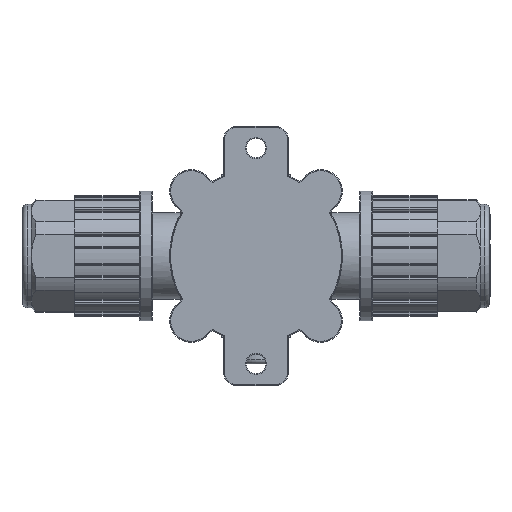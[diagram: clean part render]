
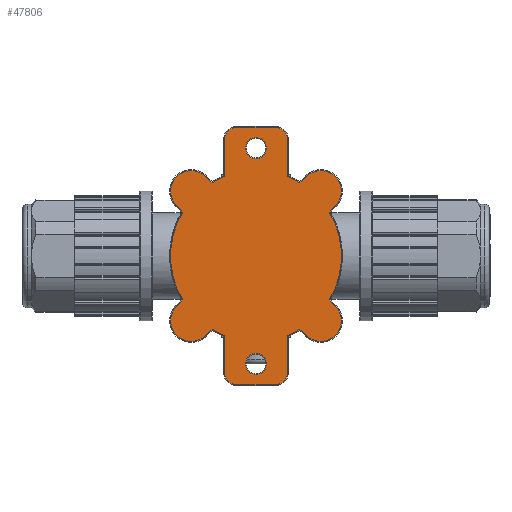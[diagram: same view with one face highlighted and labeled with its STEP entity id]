
A CAD part, front view. The second image highlights one B-rep face of the part: STEP entity #47806.
In plain terms, the highlighted planar face has unit normal (0, -1, 0).
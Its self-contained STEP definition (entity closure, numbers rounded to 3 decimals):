
#612=PLANE($,#50630);
#1821=FACE_BOUND($,#4859,.T.);
#1822=FACE_BOUND($,#4860,.T.);
#2148=FACE_OUTER_BOUND($,#4858,.T.);
#4858=EDGE_LOOP($,(#32249,#32250,#32251,#32252,#32253,#32254,#32255,#32256,
#32257,#32258,#32259,#32260,#32261,#32262,#32263,#32264,#32265,#32266,#32267,
#32268,#32269,#32270,#32271,#32272,#32273,#32274,#32275,#32276));
#4859=EDGE_LOOP($,(#32277));
#4860=EDGE_LOOP($,(#32278));
#7892=LINE($,#70179,#12351);
#7893=LINE($,#70183,#12352);
#7894=LINE($,#70187,#12353);
#7895=LINE($,#70191,#12354);
#7896=LINE($,#70195,#12355);
#7897=LINE($,#70199,#12356);
#7898=LINE($,#70203,#12357);
#7899=LINE($,#70207,#12358);
#7900=LINE($,#70211,#12359);
#7901=LINE($,#70215,#12360);
#7902=LINE($,#70219,#12361);
#7903=LINE($,#70223,#12362);
#7904=LINE($,#70227,#12363);
#7905=LINE($,#70230,#12364);
#12351=VECTOR($,#55690,2.004);
#12352=VECTOR($,#55693,8.595);
#12353=VECTOR($,#55696,9.);
#12354=VECTOR($,#55699,8.595);
#12355=VECTOR($,#55702,2.004);
#12356=VECTOR($,#55705,2.004);
#12357=VECTOR($,#55708,2.004);
#12358=VECTOR($,#55711,2.004);
#12359=VECTOR($,#55714,8.595);
#12360=VECTOR($,#55717,9.);
#12361=VECTOR($,#55720,8.595);
#12362=VECTOR($,#55723,2.004);
#12363=VECTOR($,#55726,2.004);
#12364=VECTOR($,#55729,2.004);
#17349=CIRCLE($,#50631,4.8);
#17350=CIRCLE($,#50632,19.8);
#17351=CIRCLE($,#50633,2.8);
#17352=CIRCLE($,#50634,2.8);
#17353=CIRCLE($,#50635,19.8);
#17354=CIRCLE($,#50636,4.8);
#17355=CIRCLE($,#50637,19.8);
#17356=CIRCLE($,#50638,4.8);
#17357=CIRCLE($,#50639,19.8);
#17358=CIRCLE($,#50640,2.8);
#17359=CIRCLE($,#50641,2.8);
#17360=CIRCLE($,#50642,19.8);
#17361=CIRCLE($,#50643,4.8);
#17362=CIRCLE($,#50644,19.8);
#17363=CIRCLE($,#50645,2.45);
#17364=CIRCLE($,#50646,2.45);
#19775=VERTEX_POINT($,#70175);
#19776=VERTEX_POINT($,#70176);
#19777=VERTEX_POINT($,#70178);
#19778=VERTEX_POINT($,#70180);
#19779=VERTEX_POINT($,#70182);
#19780=VERTEX_POINT($,#70184);
#19781=VERTEX_POINT($,#70186);
#19782=VERTEX_POINT($,#70188);
#19783=VERTEX_POINT($,#70190);
#19784=VERTEX_POINT($,#70192);
#19785=VERTEX_POINT($,#70194);
#19786=VERTEX_POINT($,#70196);
#19787=VERTEX_POINT($,#70198);
#19788=VERTEX_POINT($,#70200);
#19789=VERTEX_POINT($,#70202);
#19790=VERTEX_POINT($,#70204);
#19791=VERTEX_POINT($,#70206);
#19792=VERTEX_POINT($,#70208);
#19793=VERTEX_POINT($,#70210);
#19794=VERTEX_POINT($,#70212);
#19795=VERTEX_POINT($,#70214);
#19796=VERTEX_POINT($,#70216);
#19797=VERTEX_POINT($,#70218);
#19798=VERTEX_POINT($,#70220);
#19799=VERTEX_POINT($,#70222);
#19800=VERTEX_POINT($,#70224);
#19801=VERTEX_POINT($,#70226);
#19802=VERTEX_POINT($,#70228);
#19803=VERTEX_POINT($,#70231);
#19804=VERTEX_POINT($,#70233);
#24753=EDGE_CURVE($,#19775,#19776,#17349,.F.);
#24754=EDGE_CURVE($,#19776,#19777,#7892,.F.);
#24755=EDGE_CURVE($,#19777,#19778,#17350,.F.);
#24756=EDGE_CURVE($,#19778,#19779,#7893,.F.);
#24757=EDGE_CURVE($,#19779,#19780,#17351,.F.);
#24758=EDGE_CURVE($,#19780,#19781,#7894,.F.);
#24759=EDGE_CURVE($,#19781,#19782,#17352,.F.);
#24760=EDGE_CURVE($,#19782,#19783,#7895,.F.);
#24761=EDGE_CURVE($,#19783,#19784,#17353,.F.);
#24762=EDGE_CURVE($,#19784,#19785,#7896,.F.);
#24763=EDGE_CURVE($,#19785,#19786,#17354,.F.);
#24764=EDGE_CURVE($,#19786,#19787,#7897,.F.);
#24765=EDGE_CURVE($,#19787,#19788,#17355,.F.);
#24766=EDGE_CURVE($,#19788,#19789,#7898,.F.);
#24767=EDGE_CURVE($,#19789,#19790,#17356,.F.);
#24768=EDGE_CURVE($,#19790,#19791,#7899,.F.);
#24769=EDGE_CURVE($,#19791,#19792,#17357,.F.);
#24770=EDGE_CURVE($,#19792,#19793,#7900,.F.);
#24771=EDGE_CURVE($,#19793,#19794,#17358,.F.);
#24772=EDGE_CURVE($,#19794,#19795,#7901,.F.);
#24773=EDGE_CURVE($,#19795,#19796,#17359,.F.);
#24774=EDGE_CURVE($,#19796,#19797,#7902,.F.);
#24775=EDGE_CURVE($,#19797,#19798,#17360,.F.);
#24776=EDGE_CURVE($,#19798,#19799,#7903,.F.);
#24777=EDGE_CURVE($,#19799,#19800,#17361,.F.);
#24778=EDGE_CURVE($,#19800,#19801,#7904,.F.);
#24779=EDGE_CURVE($,#19801,#19802,#17362,.F.);
#24780=EDGE_CURVE($,#19802,#19775,#7905,.F.);
#24781=EDGE_CURVE($,#19803,#19803,#17363,.T.);
#24782=EDGE_CURVE($,#19804,#19804,#17364,.T.);
#32249=ORIENTED_EDGE($,*,*,#24753,.T.);
#32250=ORIENTED_EDGE($,*,*,#24754,.T.);
#32251=ORIENTED_EDGE($,*,*,#24755,.T.);
#32252=ORIENTED_EDGE($,*,*,#24756,.T.);
#32253=ORIENTED_EDGE($,*,*,#24757,.T.);
#32254=ORIENTED_EDGE($,*,*,#24758,.T.);
#32255=ORIENTED_EDGE($,*,*,#24759,.T.);
#32256=ORIENTED_EDGE($,*,*,#24760,.T.);
#32257=ORIENTED_EDGE($,*,*,#24761,.T.);
#32258=ORIENTED_EDGE($,*,*,#24762,.T.);
#32259=ORIENTED_EDGE($,*,*,#24763,.T.);
#32260=ORIENTED_EDGE($,*,*,#24764,.T.);
#32261=ORIENTED_EDGE($,*,*,#24765,.T.);
#32262=ORIENTED_EDGE($,*,*,#24766,.T.);
#32263=ORIENTED_EDGE($,*,*,#24767,.T.);
#32264=ORIENTED_EDGE($,*,*,#24768,.T.);
#32265=ORIENTED_EDGE($,*,*,#24769,.T.);
#32266=ORIENTED_EDGE($,*,*,#24770,.T.);
#32267=ORIENTED_EDGE($,*,*,#24771,.T.);
#32268=ORIENTED_EDGE($,*,*,#24772,.T.);
#32269=ORIENTED_EDGE($,*,*,#24773,.T.);
#32270=ORIENTED_EDGE($,*,*,#24774,.T.);
#32271=ORIENTED_EDGE($,*,*,#24775,.T.);
#32272=ORIENTED_EDGE($,*,*,#24776,.T.);
#32273=ORIENTED_EDGE($,*,*,#24777,.T.);
#32274=ORIENTED_EDGE($,*,*,#24778,.T.);
#32275=ORIENTED_EDGE($,*,*,#24779,.T.);
#32276=ORIENTED_EDGE($,*,*,#24780,.T.);
#32277=ORIENTED_EDGE($,*,*,#24781,.T.);
#32278=ORIENTED_EDGE($,*,*,#24782,.T.);
#47806=ADVANCED_FACE($,(#2148,#1821,#1822),#612,.F.);
#50630=AXIS2_PLACEMENT_3D($,#70174,#55686,#55687);
#50631=AXIS2_PLACEMENT_3D($,#70177,#55688,#55689);
#50632=AXIS2_PLACEMENT_3D($,#70181,#55691,#55692);
#50633=AXIS2_PLACEMENT_3D($,#70185,#55694,#55695);
#50634=AXIS2_PLACEMENT_3D($,#70189,#55697,#55698);
#50635=AXIS2_PLACEMENT_3D($,#70193,#55700,#55701);
#50636=AXIS2_PLACEMENT_3D($,#70197,#55703,#55704);
#50637=AXIS2_PLACEMENT_3D($,#70201,#55706,#55707);
#50638=AXIS2_PLACEMENT_3D($,#70205,#55709,#55710);
#50639=AXIS2_PLACEMENT_3D($,#70209,#55712,#55713);
#50640=AXIS2_PLACEMENT_3D($,#70213,#55715,#55716);
#50641=AXIS2_PLACEMENT_3D($,#70217,#55718,#55719);
#50642=AXIS2_PLACEMENT_3D($,#70221,#55721,#55722);
#50643=AXIS2_PLACEMENT_3D($,#70225,#55724,#55725);
#50644=AXIS2_PLACEMENT_3D($,#70229,#55727,#55728);
#50645=AXIS2_PLACEMENT_3D($,#70232,#55730,#55731);
#50646=AXIS2_PLACEMENT_3D($,#70234,#55732,#55733);
#55686=DIRECTION('center_axis',(0.,1.,0.));
#55687=DIRECTION('ref_axis',(0.,0.,1.));
#55688=DIRECTION('center_axis',(0.,1.,0.));
#55689=DIRECTION('ref_axis',(0.,0.,1.));
#55690=DIRECTION($,(0.707,0.,0.707));
#55691=DIRECTION('center_axis',(0.,1.,0.));
#55692=DIRECTION('ref_axis',(0.,0.,1.));
#55693=DIRECTION($,(0.,0.,-1.));
#55694=DIRECTION('center_axis',(0.,1.,0.));
#55695=DIRECTION('ref_axis',(0.,0.,1.));
#55696=DIRECTION($,(1.,0.,0.));
#55697=DIRECTION('center_axis',(0.,1.,0.));
#55698=DIRECTION('ref_axis',(0.,0.,1.));
#55699=DIRECTION($,(0.,0.,1.));
#55700=DIRECTION('center_axis',(0.,1.,0.));
#55701=DIRECTION('ref_axis',(0.,0.,1.));
#55702=DIRECTION($,(0.707,0.,-0.707));
#55703=DIRECTION('center_axis',(0.,1.,0.));
#55704=DIRECTION('ref_axis',(0.,0.,1.));
#55705=DIRECTION($,(-0.707,0.,0.707));
#55706=DIRECTION('center_axis',(0.,1.,0.));
#55707=DIRECTION('ref_axis',(0.,0.,1.));
#55708=DIRECTION($,(0.707,0.,0.707));
#55709=DIRECTION('center_axis',(0.,1.,0.));
#55710=DIRECTION('ref_axis',(0.,0.,1.));
#55711=DIRECTION($,(-0.707,0.,-0.707));
#55712=DIRECTION('center_axis',(0.,1.,0.));
#55713=DIRECTION('ref_axis',(0.,0.,1.));
#55714=DIRECTION($,(0.,0.,1.));
#55715=DIRECTION('center_axis',(0.,1.,0.));
#55716=DIRECTION('ref_axis',(0.,0.,1.));
#55717=DIRECTION($,(-1.,0.,0.));
#55718=DIRECTION('center_axis',(0.,1.,0.));
#55719=DIRECTION('ref_axis',(0.,0.,1.));
#55720=DIRECTION($,(0.,0.,-1.));
#55721=DIRECTION('center_axis',(0.,1.,0.));
#55722=DIRECTION('ref_axis',(0.,0.,1.));
#55723=DIRECTION($,(-0.707,0.,0.707));
#55724=DIRECTION('center_axis',(0.,1.,0.));
#55725=DIRECTION('ref_axis',(0.,0.,1.));
#55726=DIRECTION($,(0.707,0.,-0.707));
#55727=DIRECTION('center_axis',(0.,1.,0.));
#55728=DIRECTION('ref_axis',(0.,0.,1.));
#55729=DIRECTION($,(-0.707,0.,-0.707));
#55730=DIRECTION('center_axis',(0.,1.,0.));
#55731=DIRECTION('ref_axis',(0.,0.,1.));
#55732=DIRECTION('center_axis',(0.,1.,0.));
#55733=DIRECTION('ref_axis',(0.,0.,1.));
#70174=CARTESIAN_POINT('Origin',(0.,0.,0.));
#70175=CARTESIAN_POINT('',(18.394,0.,11.606));
#70176=CARTESIAN_POINT('',(11.606,0.,18.394));
#70177=CARTESIAN_POINT('Origin',(15.,0.,15.));
#70178=CARTESIAN_POINT('',(10.189,0.,16.977));
#70179=CARTESIAN_POINT($,(10.189,0.,16.977));
#70180=CARTESIAN_POINT('',(7.3,0.,18.405));
#70181=CARTESIAN_POINT('Origin',(0.,0.,0.));
#70182=CARTESIAN_POINT('',(7.3,0.,27.));
#70183=CARTESIAN_POINT($,(7.3,0.,27.));
#70184=CARTESIAN_POINT('',(4.5,0.,29.8));
#70185=CARTESIAN_POINT('Origin',(4.5,0.,27.));
#70186=CARTESIAN_POINT('',(-4.5,0.,29.8));
#70187=CARTESIAN_POINT($,(-4.5,0.,29.8));
#70188=CARTESIAN_POINT('',(-7.3,0.,27.));
#70189=CARTESIAN_POINT('Origin',(-4.5,0.,27.));
#70190=CARTESIAN_POINT('',(-7.3,0.,18.405));
#70191=CARTESIAN_POINT($,(-7.3,0.,18.405));
#70192=CARTESIAN_POINT('',(-10.189,0.,16.977));
#70193=CARTESIAN_POINT('Origin',(0.,0.,0.));
#70194=CARTESIAN_POINT('',(-11.606,0.,18.394));
#70195=CARTESIAN_POINT($,(-11.606,0.,18.394));
#70196=CARTESIAN_POINT('',(-18.394,0.,11.606));
#70197=CARTESIAN_POINT('Origin',(-15.,0.,15.));
#70198=CARTESIAN_POINT('',(-16.977,0.,10.189));
#70199=CARTESIAN_POINT($,(-16.977,0.,10.189));
#70200=CARTESIAN_POINT('',(-16.977,0.,-10.189));
#70201=CARTESIAN_POINT('Origin',(0.,0.,0.));
#70202=CARTESIAN_POINT('',(-18.394,0.,-11.606));
#70203=CARTESIAN_POINT($,(-18.394,0.,-11.606));
#70204=CARTESIAN_POINT('',(-11.606,0.,-18.394));
#70205=CARTESIAN_POINT('Origin',(-15.,0.,-15.));
#70206=CARTESIAN_POINT('',(-10.189,0.,-16.977));
#70207=CARTESIAN_POINT($,(-10.189,0.,-16.977));
#70208=CARTESIAN_POINT('',(-7.3,0.,-18.405));
#70209=CARTESIAN_POINT('Origin',(0.,0.,0.));
#70210=CARTESIAN_POINT('',(-7.3,0.,-27.));
#70211=CARTESIAN_POINT($,(-7.3,0.,-27.));
#70212=CARTESIAN_POINT('',(-4.5,0.,-29.8));
#70213=CARTESIAN_POINT('Origin',(-4.5,0.,-27.));
#70214=CARTESIAN_POINT('',(4.5,0.,-29.8));
#70215=CARTESIAN_POINT($,(4.5,0.,-29.8));
#70216=CARTESIAN_POINT('',(7.3,0.,-27.));
#70217=CARTESIAN_POINT('Origin',(4.5,0.,-27.));
#70218=CARTESIAN_POINT('',(7.3,0.,-18.405));
#70219=CARTESIAN_POINT($,(7.3,0.,-18.405));
#70220=CARTESIAN_POINT('',(10.189,0.,-16.977));
#70221=CARTESIAN_POINT('Origin',(0.,0.,0.));
#70222=CARTESIAN_POINT('',(11.606,0.,-18.394));
#70223=CARTESIAN_POINT($,(11.606,0.,-18.394));
#70224=CARTESIAN_POINT('',(18.394,0.,-11.606));
#70225=CARTESIAN_POINT('Origin',(15.,0.,-15.));
#70226=CARTESIAN_POINT('',(16.977,0.,-10.189));
#70227=CARTESIAN_POINT($,(16.977,0.,-10.189));
#70228=CARTESIAN_POINT('',(16.977,0.,10.189));
#70229=CARTESIAN_POINT('Origin',(0.,0.,0.));
#70230=CARTESIAN_POINT($,(18.394,0.,11.606));
#70231=CARTESIAN_POINT('',(0.,0.,27.45));
#70232=CARTESIAN_POINT('Origin',(0.,0.,25.));
#70233=CARTESIAN_POINT('',(0.,0.,-22.55));
#70234=CARTESIAN_POINT('Origin',(0.,0.,-25.));
